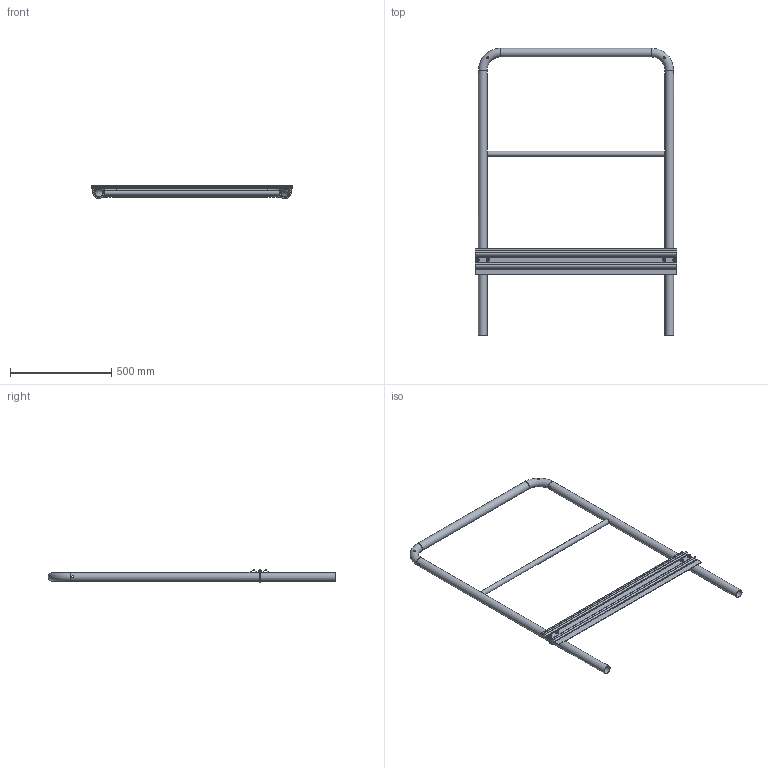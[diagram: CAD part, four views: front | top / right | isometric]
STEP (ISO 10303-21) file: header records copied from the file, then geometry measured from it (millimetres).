
FILE_DESCRIPTION((''),'2;1');
FILE_NAME('S:\Användarkataloger\AndreasA\Mina Inventor filer\Räcken\STEP\modul_ind_slist_1000-1400.stp','2010-09-07T13:18:04',('AndreasA'),(''),'Autodesk Inventor 2011','Autodesk Inventor 2011','');
FILE_SCHEMA(('AUTOMOTIVE_DESIGN { 1 0 10303 214 1 1 1 1 }'));
Length unit declared in the file: millimetre
Products named in the file (9): modul_ind_slist_1000-1400; modul_ind_1000-1400; handledare_modul_1000-1400; mellanliggare_modul_1000; sparklist_k130_modul_1000; bygelskruv_U42_kpl; bygelskruv_U42; SS 3576 8; ISO 4032 M8
Assembly tree (11 placements, depth 3):
  modul_ind_slist_1000-1400
    modul_ind_1000-1400
      handledare_modul_1000-1400
      mellanliggare_modul_1000
    sparklist_k130_modul_1000
    bygelskruv_U42_kpl  x2
      bygelskruv_U42
      SS 3576 8
      ISO 4032 M8
Bounding box: 996 x 1421.2 x 64.98 mm (x, y, z)
Volume: 1431531.8 mm3; surface area: 1360987.1 mm2
Topology: 13 solids, 13 shells, 148 faces, 350 edges, 224 vertices
Faces by surface type: plane 66, cylinder 52, cone 24, torus 6
Full cylindrical faces by diameter (mm): 6.647 x4, 7 x4, 8 x4, 8.4 x4, 10 x4, 11 x8, 16 x4, 21 x1, 25 x1, 38.4 x3, 42.4 x3
Entity records: 3275 total; most frequent: CARTESIAN_POINT 1136, DIRECTION 414, ORIENTED_EDGE 324, AXIS2_PLACEMENT_3D 174, EDGE_CURVE 162, EDGE_LOOP 158, VERTEX_POINT 128, FACE_OUTER_BOUND 86
